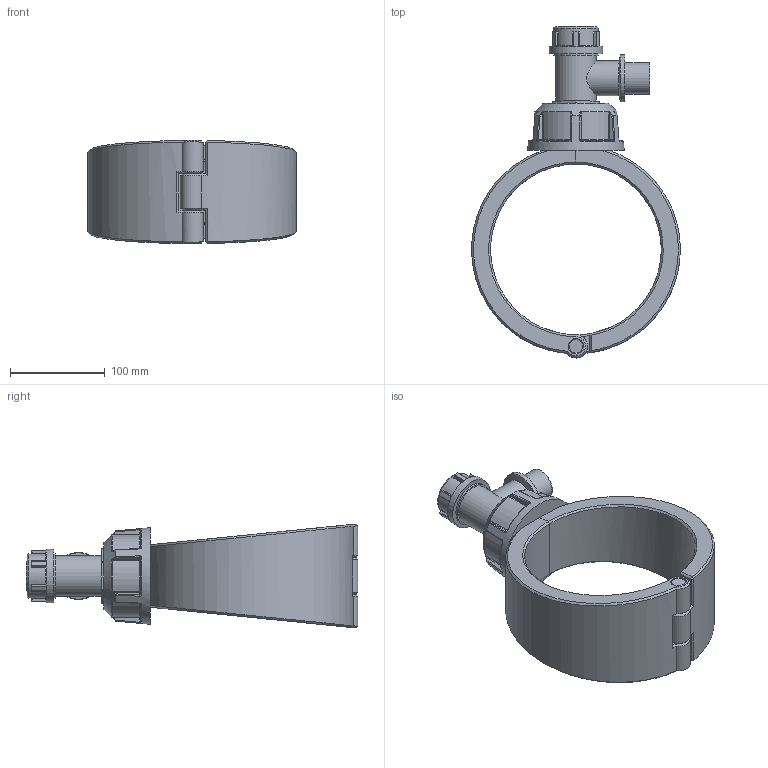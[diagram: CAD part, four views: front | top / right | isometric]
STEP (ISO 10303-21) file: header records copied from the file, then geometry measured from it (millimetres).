
FILE_DESCRIPTION(/* description */ ('Plassadle Tapper Male 180x1'''''),/* implementation_level */ '2;1');
FILE_NAME(/* name */ 'C:\Users\comp2\Dropbox\99-16-3568-Processing\Mechanical Fittings\1631R\stp\1631R0180010.stp',/* time_stamp */ '2022-02-03T12:07:06+00:00',/* author */ ('comp2'),/* organization */ (''),/* preprocessor_version */ 'ST-DEVELOPER v17.2',/* originating_system */ 'Autodesk Inventor 2019',/* authorisation */ '');
FILE_SCHEMA (('AUTOMOTIVE_DESIGN { 1 0 10303 214 3 1 1 }'));
Length unit declared in the file: millimetre
Products named in the file (1): 1631R0180010
Bounding box: 219.88 x 349.99 x 109.6 mm (x, y, z)
Volume: 1561090.6 mm3; surface area: 201877.8 mm2
Topology: 4 solids, 4 shells, 341 faces, 833 edges, 509 vertices
Faces by surface type: cylinder 110, plane 82, bspline 70, torus 40, sphere 24, cone 15
Full cylindrical faces by diameter (mm): 14.4 x1, 16.4 x3, 24.937 x1, 30.6 x1, 33.249 x1, 36.574 x1, 42.84 x1, 46.84 x2, 49.873 x1, 56.1 x1
Entity records: 13201 total; most frequent: CARTESIAN_POINT 5563, ORIENTED_EDGE 1666, DIRECTION 1492, EDGE_CURVE 833, AXIS2_PLACEMENT_3D 627, VERTEX_POINT 509, EDGE_LOOP 356, FACE_OUTER_BOUND 341
